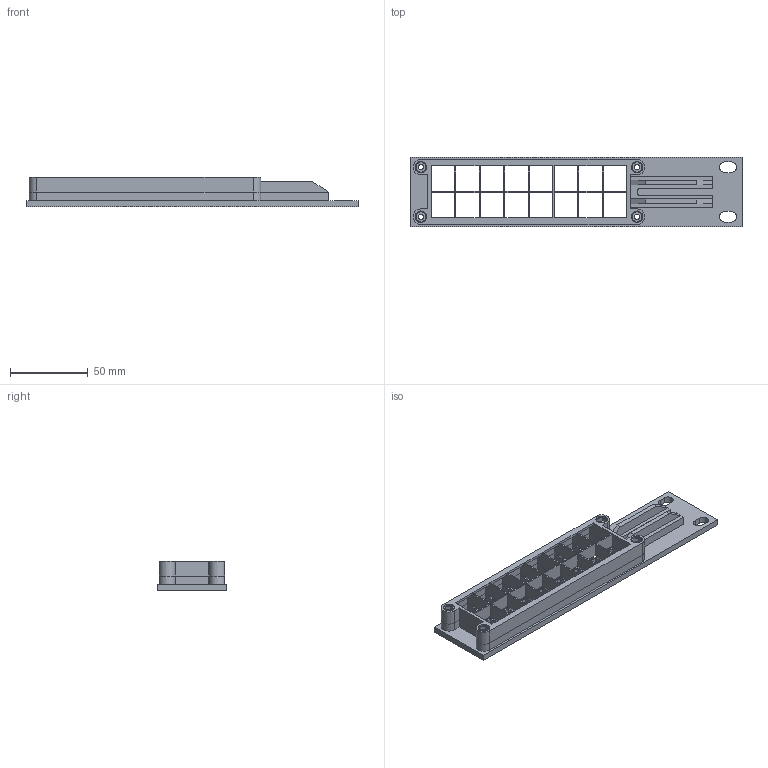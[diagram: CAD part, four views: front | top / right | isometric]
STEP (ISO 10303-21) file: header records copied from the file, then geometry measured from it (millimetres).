
FILE_DESCRIPTION(('Open CASCADE Model'),'2;1');
FILE_NAME('Open CASCADE Shape Model','2026-09-26T17:01:09',('Author'),( 'Open CASCADE'),'Open CASCADE STEP processor 7.9','Open CASCADE 7.9' ,'Unknown');
FILE_SCHEMA(('AUTOMOTIVE_DESIGN { 1 0 10303 214 1 1 1 1 }'));
Length unit declared in the file: millimetre
Products named in the file (3): R3_TWO_MAIN_PRINT_PARTS; Front_Rack_Plate_R3_Internal_Wall_Relief; Rear_Plate_R2_Unchanged
Assembly tree (2 placements, depth 2):
  R3_TWO_MAIN_PRINT_PARTS
    Front_Rack_Plate_R3_Internal_Wall_Relief
    Rear_Plate_R2_Unchanged
Bounding box: 212.93 x 44.45 x 19 mm (x, y, z)
Volume: 40947 mm3; surface area: 45430.6 mm2
Topology: 2 solids, 2 shells, 346 faces, 1016 edges, 676 vertices
Faces by surface type: plane 316, cylinder 30
Full cylindrical faces by diameter (mm): 3.4 x8, 7.4 x8
Entity records: 24784 total; most frequent: CARTESIAN_POINT 4305, DIRECTION 3734, LINE 2888, VECTOR 2888, ORIENTED_EDGE 2032, PCURVE 2032, DEFINITIONAL_REPRESENTATION 2032, EDGE_CURVE 1016
